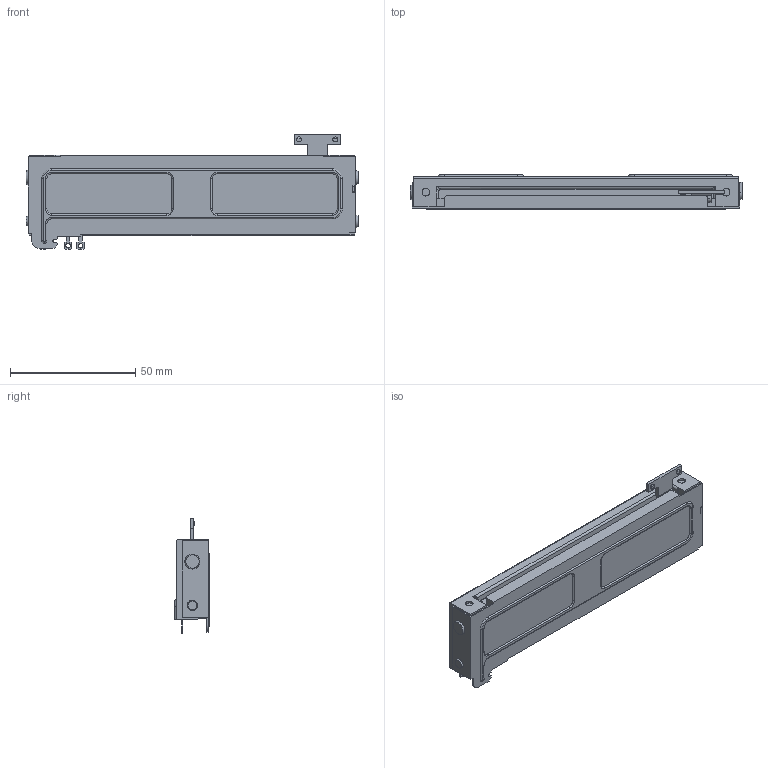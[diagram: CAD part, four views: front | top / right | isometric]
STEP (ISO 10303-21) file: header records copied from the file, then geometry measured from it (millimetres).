
FILE_DESCRIPTION (( 'STEP AP214' ), '1' );
FILE_NAME ('RSA0K11A901L.STEP', '2012-03-05T03:45:22', ( '' ), ( '' ), 'SwSTEP 2.0', 'SolidWorks 2010', '' );
FILE_SCHEMA (( 'AUTOMOTIVE_DESIGN' ));
Length unit declared in the file: millimetre
Products named in the file (1): RSA0K11A901L
Bounding box: 132.6 x 13.9 x 45.95 mm (x, y, z)
Volume: 52349.9 mm3; surface area: 14474.5 mm2
Topology: 1 solids, 1 shells, 216 faces, 586 edges, 381 vertices
Faces by surface type: plane 119, cylinder 67, torus 20, cone 8, bspline 2
Entity records: 9297 total; most frequent: CARTESIAN_POINT 1323, DIRECTION 1173, ORIENTED_EDGE 1168, EDGE_CURVE 584, AXIS2_PLACEMENT_3D 391, LINE 391, VECTOR 391, VERTEX_POINT 381
